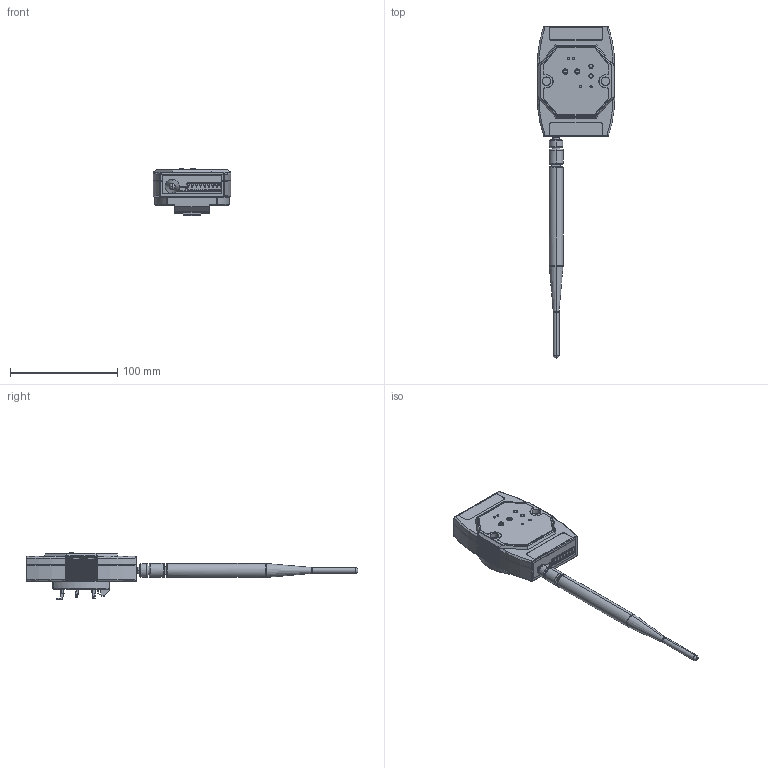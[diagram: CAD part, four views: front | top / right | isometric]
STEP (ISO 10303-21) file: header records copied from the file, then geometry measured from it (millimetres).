
FILE_DESCRIPTION((''),'2;1');
FILE_NAME('XX-3D_OUT-LPE00','2022-11-23T15:38:00',('BCKIM'),(''),'CREO PARAMETRIC BY PTC INC, 2020454','CREO PARAMETRIC BY PTC INC, 2020454','');
FILE_SCHEMA(('CONFIG_CONTROL_DESIGN'));
Products named in the file (1): XX-3D_OUT-LPE00
Bounding box: 72 x 308.9 x 44.6 mm (x, y, z)
Volume: 194424.8 mm3; surface area: 53055.6 mm2
Topology: 1 solids, 5 shells, 1939 faces, 5386 edges, 3508 vertices
Faces by surface type: plane 1140, cylinder 569, torus 146, cone 40, bspline 24, sphere 16, extrusion 4
Entity records: 64911 total; most frequent: CARTESIAN_POINT 15224, ORIENTED_EDGE 10772, DIRECTION 9980, EDGE_CURVE 5386, VERTEX_POINT 3508, VECTOR 3418, LINE 3414, AXIS2_PLACEMENT_3D 3281
